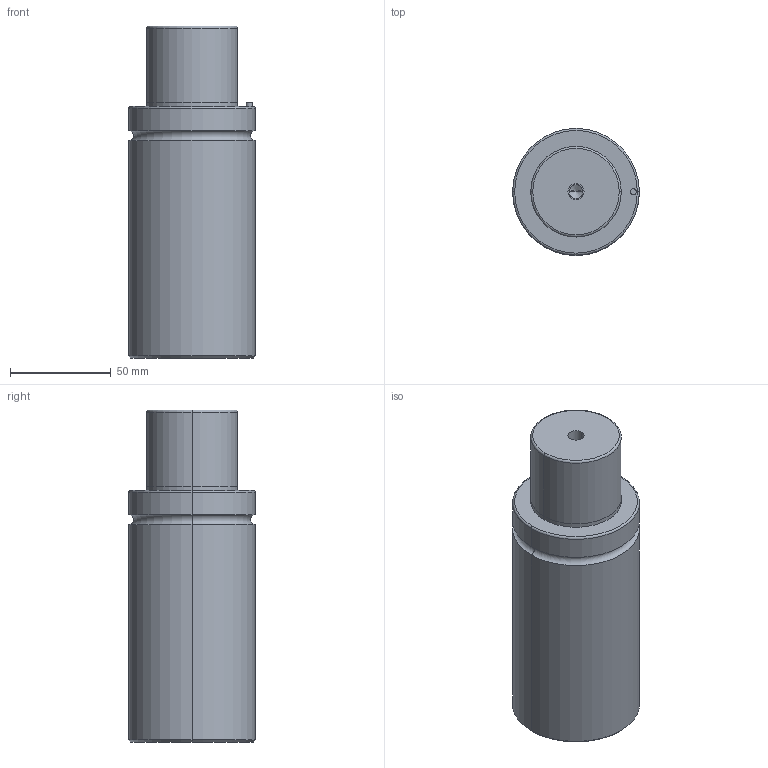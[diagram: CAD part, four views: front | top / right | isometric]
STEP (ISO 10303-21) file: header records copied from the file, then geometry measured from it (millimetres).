
FILE_DESCRIPTION(/* description */ (''),/* implementation_level */ '2;1');
FILE_NAME(/* name */ '3d_gsm63-38_03952_r00.stp',/* time_stamp */ '2011-01-10T14:15:14+09:00',/* author */ ('MISUMI'),/* organization */ (''),/* preprocessor_version */ 'ST-DEVELOPER v11',/* originating_system */ 'UGS - NX 5.0',/* authorisation */ '');
FILE_SCHEMA (('CONFIG_CONTROL_DESIGN'));
Length unit declared in the file: millimetre
Products named in the file (1): 3d_gsm63-38_03952_r00
Bounding box: 63 x 63 x 165 mm (x, y, z)
Volume: 448367.1 mm3; surface area: 38313.9 mm2
Topology: 1 solids, 1 shells, 50 faces, 106 edges, 60 vertices
Faces by surface type: cylinder 26, cone 10, plane 8, torus 6
Entity records: 1382 total; most frequent: DIRECTION 262, CARTESIAN_POINT 209, ORIENTED_EDGE 196, AXIS2_PLACEMENT_3D 113, EDGE_CURVE 98, CIRCLE 62, EDGE_LOOP 60, VERTEX_POINT 60
